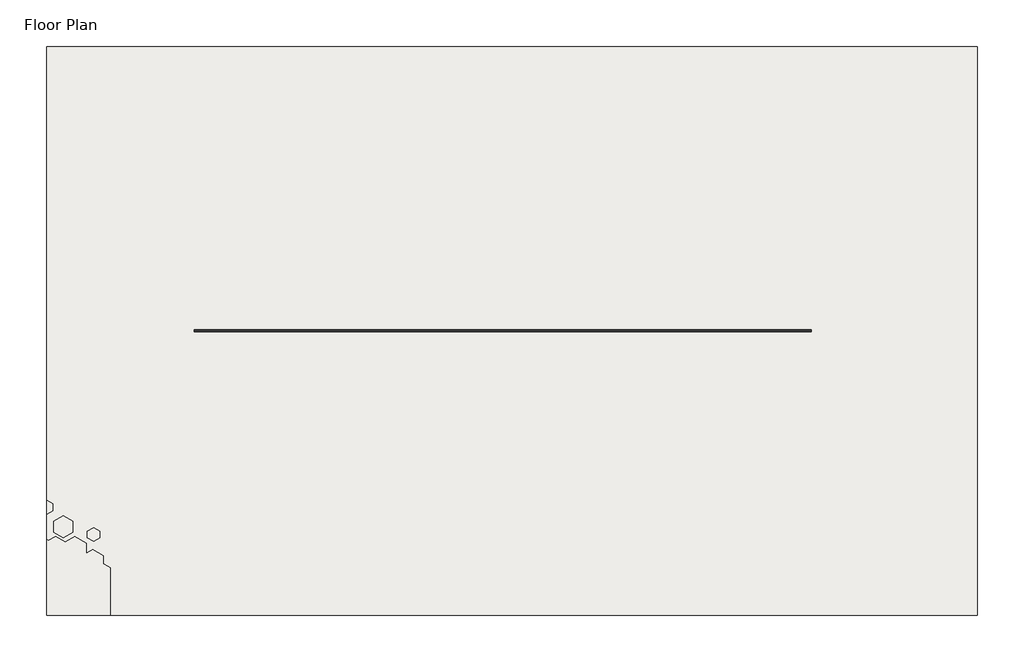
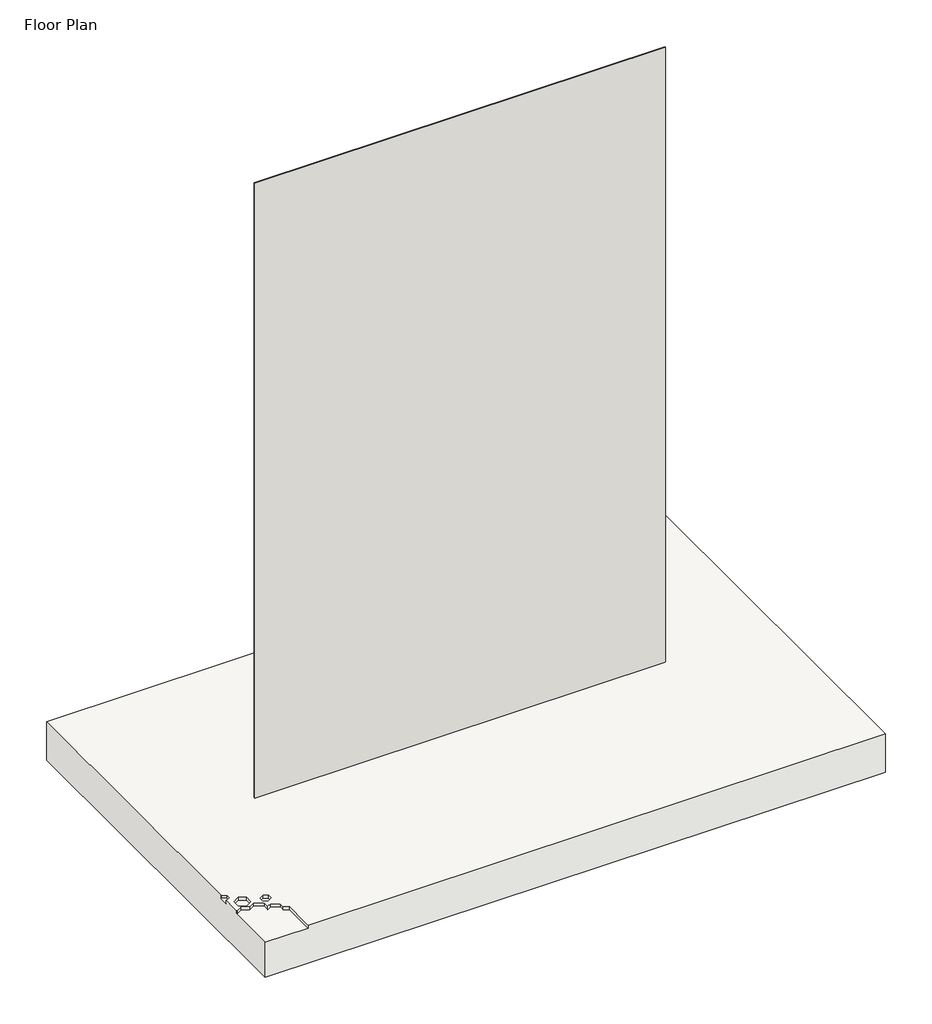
# One storey, incomplete: 1 slab, 1 wall.
"""IFC4 building model written with IfcOpenShell, lengths in millimetres."""

from ifc_helpers import new_model, si_unit, origin, origin_with_axes, place, context, project, spatial, polyline, outline, extrude, faceted_brep, element, save

model = new_model("IFC4")

# Units and contexts
model_context = context("Model", 3, world=origin())
ifc_project = project(units=[si_unit("LENGTHUNIT", "METRE", prefix="MILLI")], contexts=[model_context])

# Site, building, storey
site = spatial("IfcSite", under=ifc_project)
building = spatial("IfcBuilding", under=site)
storey = spatial("IfcBuildingStorey", under=building, Name="Floor Plan", Elevation=0.0)

# Slab
placement = place(None, origin())
element("IfcSlab", 1, ObjectType="Floor 1", at=placement, inside=storey, context=model_context, shape_type="Brep", body=[
    faceted_brep([(13669.564463, -1405.268292, -300.0), (9069.564463, -1405.268292, -300.0), (9069.564463, 1405.268292, -300.0), (13669.564463, 1405.268292, -300.0), (13669.564463, 1405.268292, 0.0), (9069.564463, 1405.268292, 0.0), (9069.564463, -838.8208533, 0.0), (9073.1211266, -836.7674126, 0.0), (9103.8301292, -854.4972635, 0.0), (9103.8301292, -887.6294851, 0.0), (9073.1211266, -905.3593361, 0.0), (9069.564463, -903.3058954, 0.0), (9069.564463, -1029.5470898, 0.0), (9079.1972272, -1035.1085689, 0.0), (9115.3908374, -1014.2121783, 0.0), (9162.4046401, -1041.3556099, 0.0), (9208.4091656, -1014.7948848, 0.0), (9267.6401701, -1048.9919211, 0.0), (9267.6401701, -1095.6301509, 0.0), (9296.9088101, -1078.7318937, 0.0), (9351.5578344, -1110.2835225, 0.0), (9351.5578344, -1149.3943664, 0.0), (9386.1988505, -1169.3943664, 0.0), (9386.1988505, -1405.268292, 0.0), (13669.564463, -1405.268292, 0.0), (9152.4226577, -913.8797767, 0.0), (9198.7748127, -940.6412058, 0.0), (9198.7748127, -995.8128392, 0.0), (9152.4226577, -1022.5742684, 0.0), (9106.0705027, -995.8128392, 0.0), (9106.0705027, -940.6412058, 0.0), (9302.5290945, -971.7658751, 0.0), (9333.3339718, -989.5510793, 0.0), (9333.3339718, -1022.1588741, 0.0), (9302.5290945, -1039.9440783, 0.0), (9271.7242172, -1022.1588741, 0.0), (9271.7242172, -989.5510793, 0.0), (9386.1988505, -1405.268292, -25.0), (9069.564463, -1405.268292, -25.0), (9069.564463, -1029.5470898, -25.0), (9069.564463, -903.3058954, -25.0), (9069.564463, -838.8208533, -25.0), (9386.1988505, -1169.3943664, -25.0), (9351.5578344, -1149.3943664, -25.0), (9351.5578344, -1110.2835225, -25.0), (9296.9088101, -1078.7318937, -25.0), (9267.6401701, -1095.6301509, -25.0), (9267.6401701, -1048.9919211, -25.0), (9208.4091656, -1014.7948848, -25.0), (9162.4046401, -1041.3556099, -25.0), (9115.3908374, -1014.2121783, -25.0), (9079.1972272, -1035.1085689, -25.0), (9198.7748127, -940.6412058, -25.0), (9152.4226577, -913.8797767, -25.0), (9106.0705027, -940.6412058, -25.0), (9106.0705027, -995.8128392, -25.0), (9152.4226577, -1022.5742684, -25.0), (9198.7748127, -995.8128392, -25.0), (9103.8301292, -854.4972635, -25.0), (9073.1211266, -836.7674126, -25.0), (9073.1211266, -905.3593361, -25.0), (9103.8301292, -887.6294851, -25.0), (9333.3339718, -989.5510793, -25.0), (9302.5290945, -971.7658751, -25.0), (9271.7242172, -989.5510793, -25.0), (9271.7242172, -1022.1588741, -25.0), (9302.5290945, -1039.9440783, -25.0), (9333.3339718, -1022.1588741, -25.0)], [[[0, 1, 2, 3]], [[4, 5, 6, 7, 8, 9, 10, 11, 12, 13, 14, 15, 16, 17, 18, 19, 20, 21, 22, 23, 24], [25, 26, 27, 28, 29, 30], [31, 32, 33, 34, 35, 36]], [[1, 0, 24, 23, 37, 38]], [[2, 1, 38, 39, 12, 11, 40, 41, 6, 5]], [[3, 2, 5, 4]], [[42, 43, 44, 45, 46, 47, 48, 49, 50, 51, 39, 38, 37]], [[52, 53, 54, 55, 56, 57]], [[58, 59, 41, 40, 60, 61]], [[62, 63, 64, 65, 66, 67]], [[42, 37, 23, 22]], [[43, 42, 22, 21]], [[44, 43, 21, 20]], [[45, 44, 20, 19]], [[46, 45, 19, 18]], [[47, 46, 18, 17]], [[48, 47, 17, 16]], [[49, 48, 16, 15]], [[50, 49, 15, 14]], [[51, 50, 14, 13]], [[39, 51, 13, 12]], [[53, 52, 26, 25]], [[54, 53, 25, 30]], [[55, 54, 30, 29]], [[56, 55, 29, 28]], [[57, 56, 28, 27]], [[52, 57, 27, 26]], [[59, 58, 8, 7]], [[41, 59, 7, 6]], [[60, 40, 11, 10]], [[61, 60, 10, 9]], [[58, 61, 9, 8]], [[63, 62, 32, 31]], [[64, 63, 31, 36]], [[65, 64, 36, 35]], [[66, 65, 35, 34]], [[67, 66, 34, 33]], [[62, 67, 33, 32]], [[0, 3, 4, 24]]]),
])

# Wall
element("IfcWall", 2, ObjectType="Cemintel Barestone Internal 9mm x 1200mm x 2400mm", at=placement, inside=storey, context=model_context, shape_type="SweptSolid", body=[
    extrude(outline(polyline([(12848.0, -4.5), (9800.0, -4.5), (9800.0, 4.5), (12848.0, 4.5), (12848.0, -4.5)])), origin_with_axes(), (0.0, 0.0, 1.0), 4820.0),
])

save(model, "model.ifc")
